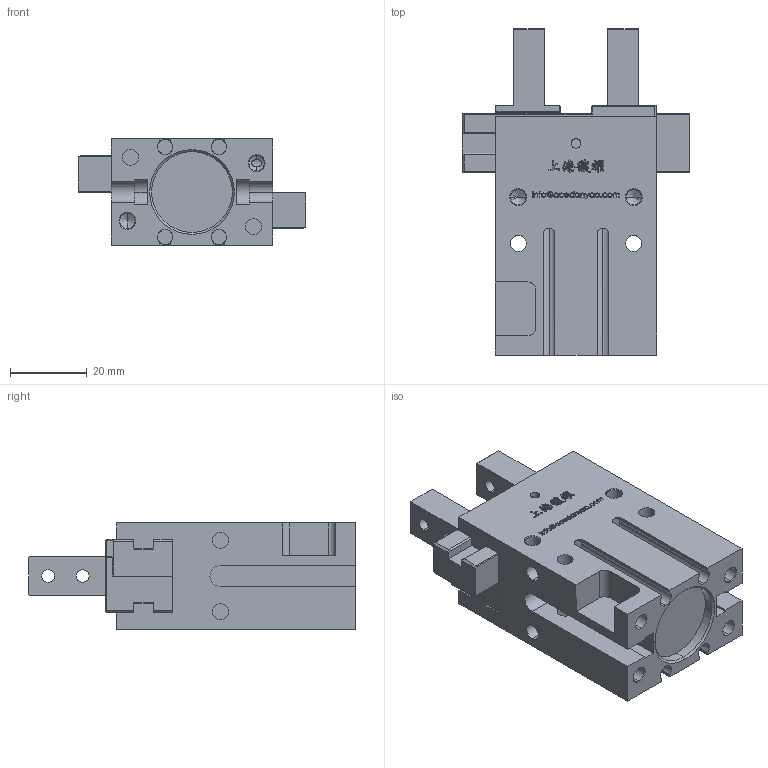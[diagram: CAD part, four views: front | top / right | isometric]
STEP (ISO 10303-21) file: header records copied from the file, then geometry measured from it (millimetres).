
FILE_DESCRIPTION (( 'STEP AP203' ), '1' );
FILE_NAME ('PEP-20-C2-VS-原始檔-組合-W106.04.20.STEP', '2017-04-20T02:33:43', ( 'DanyaoCAD' ), ( '' ), 'SwSTEP 2.0', 'SolidWorks 2016', '' );
FILE_SCHEMA (( 'CONFIG_CONTROL_DESIGN' ));
Length unit declared in the file: millimetre
Products named in the file (3): Corpo; Griffa; PEP-20-C2-VS-原始檔-組合-W106.04.20
Assembly tree (3 placements, depth 2):
  PEP-20-C2-VS-原始檔-組合-W106.04.20
    Corpo
    Griffa  x2
Bounding box: 59 x 84.8 x 27.6 mm (x, y, z)
Volume: 67344.4 mm3; surface area: 24843.4 mm2
Topology: 3 solids, 3 shells, 1020 faces, 2867 edges, 1899 vertices
Faces by surface type: bspline 640, plane 287, cylinder 75, cone 18
Entity records: 48262 total; most frequent: CARTESIAN_POINT 26954, ORIENTED_EDGE 5498, EDGE_CURVE 2749, DIRECTION 2293, VERTEX_POINT 1826, LINE 1299, VECTOR 1299, B_SPLINE_CURVE_WITH_KNOTS 1298
